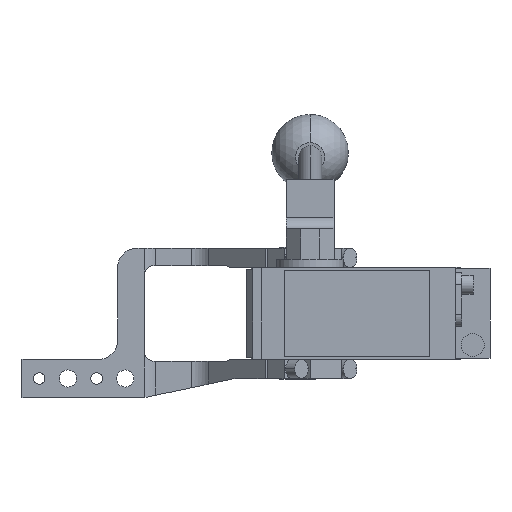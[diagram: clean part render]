
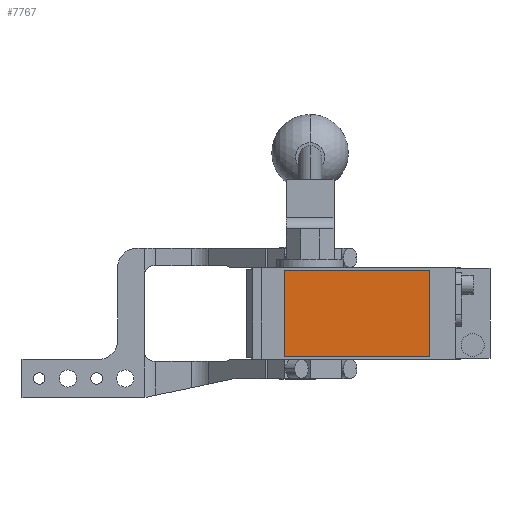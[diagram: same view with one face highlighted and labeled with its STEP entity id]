
A CAD part, front view. The second image highlights one B-rep face of the part: STEP entity #7767.
In plain terms, the highlighted planar face has unit normal (0, -1, 0).
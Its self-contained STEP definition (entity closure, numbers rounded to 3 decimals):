
#331 = CARTESIAN_POINT ( 'NONE',  ( -7., -280.5, 22.5 ) ) ;
#378 = EDGE_CURVE ( 'NONE', #8045, #614, #3806, .T. ) ;
#614 = VERTEX_POINT ( 'NONE', #11572 ) ;
#639 = ORIENTED_EDGE ( 'NONE', *, *, #5807, .T. ) ;
#1091 = ORIENTED_EDGE ( 'NONE', *, *, #378, .T. ) ;
#1388 = CARTESIAN_POINT ( 'NONE',  ( -7., -280.5, -22.5 ) ) ;
#1528 = DIRECTION ( 'NONE',  ( 0., 0., -1. ) ) ;
#1546 = VERTEX_POINT ( 'NONE', #11513 ) ;
#1868 = CARTESIAN_POINT ( 'NONE',  ( -7., -280.5, 22.5 ) ) ;
#2202 = PLANE ( 'NONE',  #4928 ) ;
#2277 = VECTOR ( 'NONE', #1528, 1000. ) ;
#2456 = DIRECTION ( 'NONE',  ( 1., 0., 0. ) ) ;
#2528 = LINE ( 'NONE', #1388, #5195 ) ;
#2828 = VECTOR ( 'NONE', #11942, 1000. ) ;
#3251 = DIRECTION ( 'NONE',  ( 0., 0., -1. ) ) ;
#3490 = LINE ( 'NONE', #9161, #14658 ) ;
#3602 = EDGE_CURVE ( 'NONE', #1546, #6038, #3490, .T. ) ;
#3806 = LINE ( 'NONE', #9761, #2277 ) ;
#4615 = ORIENTED_EDGE ( 'NONE', *, *, #12635, .T. ) ;
#4928 = AXIS2_PLACEMENT_3D ( 'NONE', #7787, #13651, #3251 ) ;
#5195 = VECTOR ( 'NONE', #2456, 1000. ) ;
#5807 = EDGE_CURVE ( 'NONE', #614, #1546, #2528, .T. ) ;
#6038 = VERTEX_POINT ( 'NONE', #6588 ) ;
#6150 = LINE ( 'NONE', #331, #2828 ) ;
#6588 = CARTESIAN_POINT ( 'NONE',  ( 69., -280.5, 22.5 ) ) ;
#7767 = ADVANCED_FACE ( 'NONE', ( #10280 ), #2202, .T. ) ;
#7787 = CARTESIAN_POINT ( 'NONE',  ( 0., -280.5, 0. ) ) ;
#8045 = VERTEX_POINT ( 'NONE', #1868 ) ;
#8882 = EDGE_LOOP ( 'NONE', ( #1091, #639, #10587, #4615 ) ) ;
#9161 = CARTESIAN_POINT ( 'NONE',  ( 69., -280.5, 22.5 ) ) ;
#9761 = CARTESIAN_POINT ( 'NONE',  ( -7., -280.5, 22.5 ) ) ;
#10280 = FACE_OUTER_BOUND ( 'NONE', #8882, .T. ) ;
#10587 = ORIENTED_EDGE ( 'NONE', *, *, #3602, .T. ) ;
#11495 = DIRECTION ( 'NONE',  ( 0., 0., 1. ) ) ;
#11513 = CARTESIAN_POINT ( 'NONE',  ( 69., -280.5, -22.5 ) ) ;
#11572 = CARTESIAN_POINT ( 'NONE',  ( -7., -280.5, -22.5 ) ) ;
#11942 = DIRECTION ( 'NONE',  ( -1., 0., 0. ) ) ;
#12635 = EDGE_CURVE ( 'NONE', #6038, #8045, #6150, .T. ) ;
#13651 = DIRECTION ( 'NONE',  ( 0., -1., 0. ) ) ;
#14658 = VECTOR ( 'NONE', #11495, 1000. ) ;
